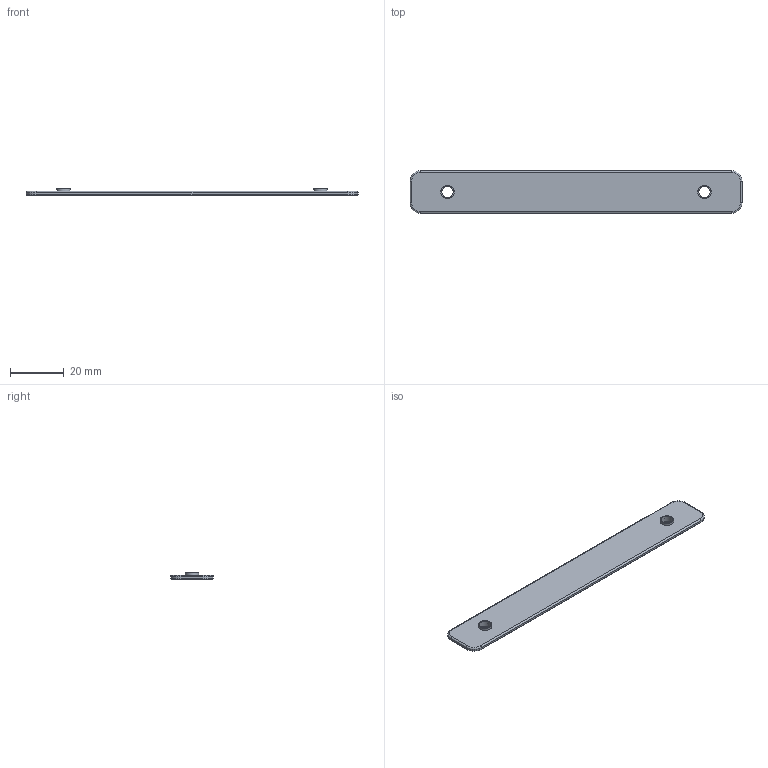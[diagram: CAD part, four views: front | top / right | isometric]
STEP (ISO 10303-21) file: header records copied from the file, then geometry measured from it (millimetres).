
FILE_DESCRIPTION(('Open CASCADE Model'),'2;1');
FILE_NAME('W-BAR-WL96-16','2026-10-19T21:23:54',('Author'),( 'Open CASCADE'),'Open CASCADE STEP processor 8.0','build123d', 'Unknown');
FILE_SCHEMA(('AUTOMOTIVE_DESIGN { 1 0 10303 214 1 1 1 1 }'));
Length unit declared in the file: millimetre
Products named in the file (2): W-BAR-WL96-16; brass_WL96-16__w
Assembly tree (1 placements, depth 2):
  W-BAR-WL96-16
    brass_WL96-16__w
Bounding box: 124 x 16 x 2.49 mm (x, y, z)
Volume: 2895.5 mm3; surface area: 4288 mm2
Topology: 1 solids, 1 shells, 32 faces, 68 edges, 40 vertices
Faces by surface type: plane 12, cylinder 12, cone 4, torus 4
Full cylindrical faces by diameter (mm): 4.3 x2, 5 x2
Entity records: 1768 total; most frequent: CARTESIAN_POINT 358, DIRECTION 264, ORIENTED_EDGE 136, PCURVE 136, DEFINITIONAL_REPRESENTATION 136, LINE 124, VECTOR 124, EDGE_CURVE 68
